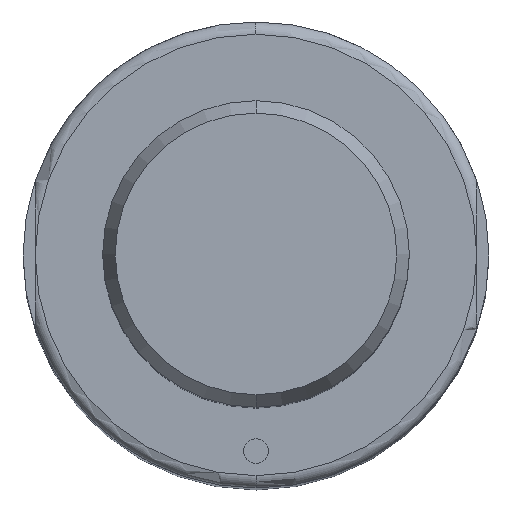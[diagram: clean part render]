
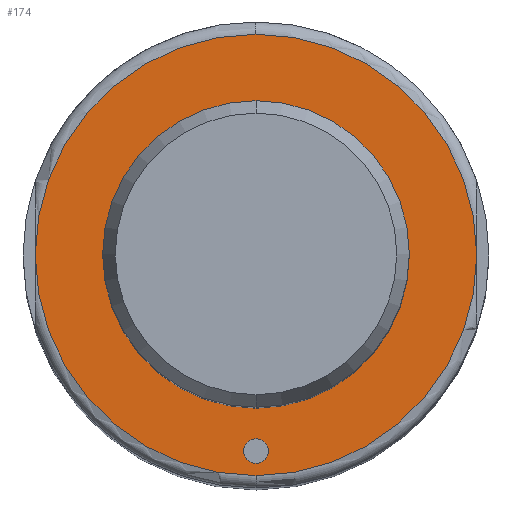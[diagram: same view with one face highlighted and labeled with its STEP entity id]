
A CAD part, top view. The second image highlights one B-rep face of the part: STEP entity #174.
In plain terms, the highlighted planar face has unit normal (0, 0, 1).
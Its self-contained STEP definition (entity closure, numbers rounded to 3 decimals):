
#105=FACE_BOUND('',#298,.T.);
#106=FACE_BOUND('',#299,.T.);
#107=FACE_BOUND('',#300,.T.);
#125=PLANE('',#985);
#174=ADVANCED_FACE('',(#105,#106,#107),#125,.T.);
#298=EDGE_LOOP('',(#459,#460,#461,#462));
#299=EDGE_LOOP('',(#463,#464));
#300=EDGE_LOOP('',(#465,#466));
#367=CIRCLE('',#968,12.5);
#368=CIRCLE('',#970,12.5);
#373=CIRCLE('',#979,18.);
#374=CIRCLE('',#980,18.);
#375=CIRCLE('',#981,18.);
#376=CIRCLE('',#982,18.);
#377=CIRCLE('',#983,1.);
#378=CIRCLE('',#984,1.);
#459=ORIENTED_EDGE('',*,*,#765,.F.);
#460=ORIENTED_EDGE('',*,*,#766,.F.);
#461=ORIENTED_EDGE('',*,*,#767,.F.);
#462=ORIENTED_EDGE('',*,*,#768,.F.);
#463=ORIENTED_EDGE('',*,*,#769,.F.);
#464=ORIENTED_EDGE('',*,*,#770,.F.);
#465=ORIENTED_EDGE('',*,*,#758,.T.);
#466=ORIENTED_EDGE('',*,*,#756,.T.);
#677=VERTEX_POINT('',#1411);
#678=VERTEX_POINT('',#1413);
#683=VERTEX_POINT('',#1432);
#684=VERTEX_POINT('',#1433);
#685=VERTEX_POINT('',#1435);
#686=VERTEX_POINT('',#1437);
#687=VERTEX_POINT('',#1440);
#688=VERTEX_POINT('',#1441);
#756=EDGE_CURVE('',#678,#677,#367,.T.);
#758=EDGE_CURVE('',#677,#678,#368,.T.);
#765=EDGE_CURVE('',#683,#684,#373,.T.);
#766=EDGE_CURVE('',#685,#683,#374,.T.);
#767=EDGE_CURVE('',#686,#685,#375,.T.);
#768=EDGE_CURVE('',#684,#686,#376,.T.);
#769=EDGE_CURVE('',#687,#688,#377,.T.);
#770=EDGE_CURVE('',#688,#687,#378,.T.);
#968=AXIS2_PLACEMENT_3D('',#1412,#1108,#1109);
#970=AXIS2_PLACEMENT_3D('',#1416,#1113,#1114);
#979=AXIS2_PLACEMENT_3D('',#1431,#1133,#1134);
#980=AXIS2_PLACEMENT_3D('',#1434,#1135,#1136);
#981=AXIS2_PLACEMENT_3D('',#1436,#1137,#1138);
#982=AXIS2_PLACEMENT_3D('',#1438,#1139,#1140);
#983=AXIS2_PLACEMENT_3D('',#1439,#1141,#1142);
#984=AXIS2_PLACEMENT_3D('',#1442,#1143,#1144);
#985=AXIS2_PLACEMENT_3D('',#1443,#1145,#1146);
#1108=DIRECTION('',(0.,0.,-1.));
#1109=DIRECTION('',(-1.,0.,0.));
#1113=DIRECTION('',(0.,0.,-1.));
#1114=DIRECTION('',(1.,0.,0.));
#1133=DIRECTION('',(0.,0.,-1.));
#1134=DIRECTION('',(-1.,0.,0.));
#1135=DIRECTION('',(0.,0.,-1.));
#1136=DIRECTION('',(1.,0.,0.));
#1137=DIRECTION('',(0.,0.,-1.));
#1138=DIRECTION('',(1.,0.,0.));
#1139=DIRECTION('',(0.,0.,-1.));
#1140=DIRECTION('',(-1.,0.,0.));
#1141=DIRECTION('',(0.,0.,1.));
#1142=DIRECTION('',(1.,0.,0.));
#1143=DIRECTION('',(0.,0.,1.));
#1144=DIRECTION('',(-1.,0.,0.));
#1145=DIRECTION('',(0.,0.,1.));
#1146=DIRECTION('',(1.,0.,0.));
#1411=CARTESIAN_POINT('',(0.,-12.5,98.));
#1412=CARTESIAN_POINT('',(0.,0.,98.));
#1413=CARTESIAN_POINT('',(0.,12.5,98.));
#1416=CARTESIAN_POINT('',(0.,0.,98.));
#1431=CARTESIAN_POINT('',(0.,0.,98.));
#1432=CARTESIAN_POINT('',(0.,18.,98.));
#1433=CARTESIAN_POINT('',(18.,0.,98.));
#1434=CARTESIAN_POINT('',(0.,0.,98.));
#1435=CARTESIAN_POINT('',(-18.,0.,98.));
#1436=CARTESIAN_POINT('',(0.,0.,98.));
#1437=CARTESIAN_POINT('',(0.,-18.,98.));
#1438=CARTESIAN_POINT('',(0.,0.,98.));
#1439=CARTESIAN_POINT('',(0.,-16.,98.));
#1440=CARTESIAN_POINT('',(0.,-15.,98.));
#1441=CARTESIAN_POINT('',(0.,-17.,98.));
#1442=CARTESIAN_POINT('',(0.,-16.,98.));
#1443=CARTESIAN_POINT('',(0.,0.,98.));
